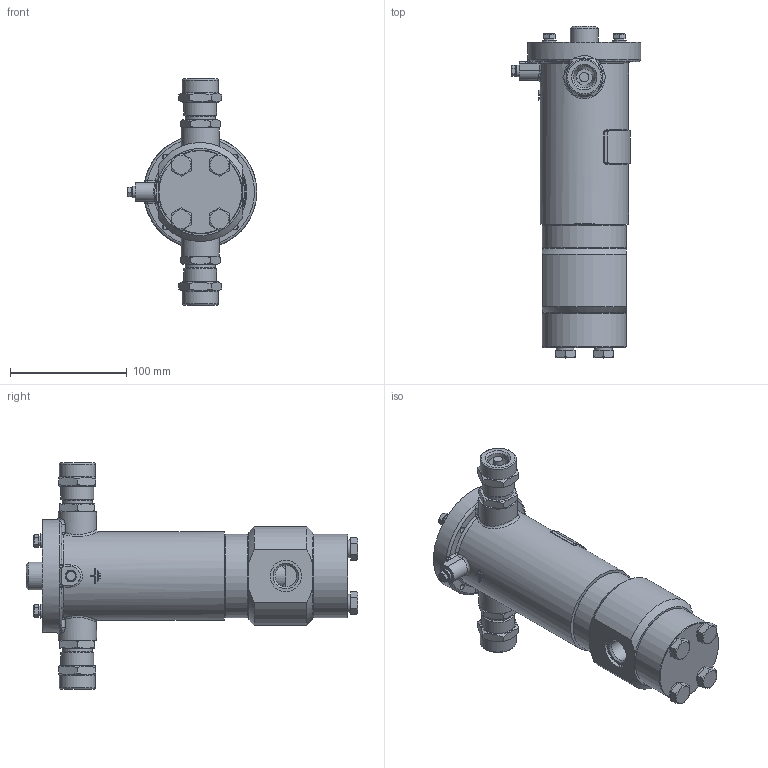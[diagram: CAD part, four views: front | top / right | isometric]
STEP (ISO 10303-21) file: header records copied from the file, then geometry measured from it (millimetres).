
FILE_DESCRIPTION(('STEP AP203'), '1');
FILE_NAME('ÑÅÍÑ-ÏÐ DN10PN250-ÍÎ-ÑÂ-G1_2-0.stp', '2018-10-01T10:05:58', ('Îðëîâ Å.Â.'), ('ÎÎÎ ÍÏÏ Ñåíñîð'), 'ASCON STEP Converter 1.3', 'Kompas 3D', '');
FILE_SCHEMA(('CONFIG_CONTROL_DESIGN','SUPPORT_RESOURCE_SCHEMA'));
Length unit declared in the file: millimetre
Products named in the file (1): 11
Bounding box: 111.2 x 284.9 x 194 mm (x, y, z)
Volume: 809173.9 mm3; surface area: 218965.3 mm2
Topology: 3 solids, 21 shells, 1769 faces, 4725 edges, 3087 vertices
Faces by surface type: cylinder 925, plane 660, cone 119, bspline 27, torus 22, extrusion 16
Full cylindrical faces by diameter (mm): 3.3 x2, 3.5 x2, 4.134 x1, 4.917 x4, 5 x1, 6 x7, 6.1 x1, 6.5 x4, 8 x4, 8.376 x4, 9 x1, 10 x5, 11 x4, 12 x4, 13 x2, 15 x1, 18.631 x2, 18.632 x2, 20 x3, 21.5 x1, 22 x2, 22.376 x2, 23.5 x2, 24 x3, 24.5 x2, 26 x4, 26.376 x2, 27 x2, 28 x2, 30 x1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
Entity records: 66119 total; most frequent: CARTESIAN_POINT 20742, DIRECTION 9884, ORIENTED_EDGE 9422, EDGE_CURVE 4711, AXIS2_PLACEMENT_3D 3782, VERTEX_POINT 3087, VECTOR 2320, LINE 2304
